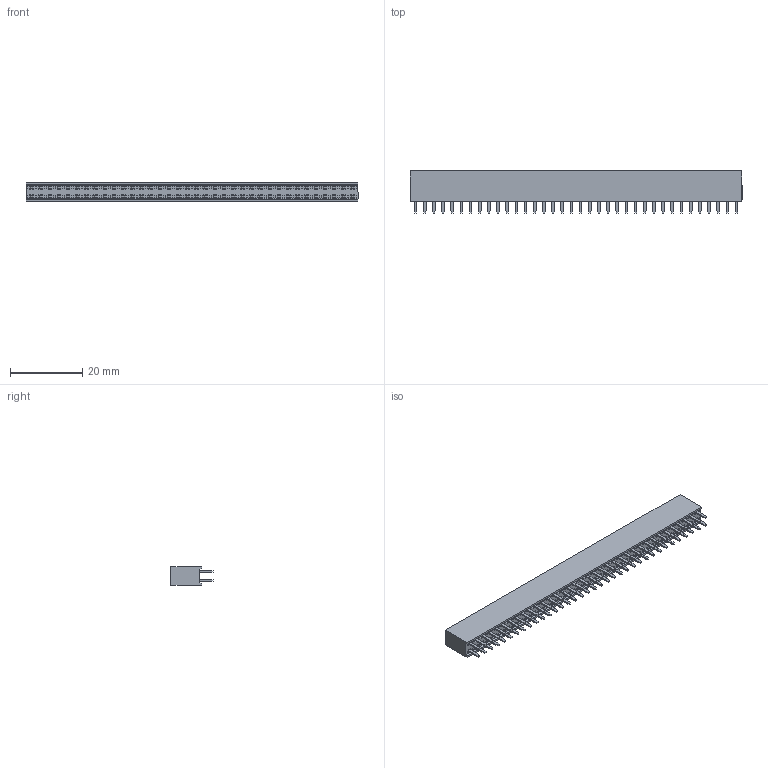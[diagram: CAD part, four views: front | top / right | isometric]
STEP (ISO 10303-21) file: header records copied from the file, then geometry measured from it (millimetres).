
FILE_DESCRIPTION (( 'STEP AP203' ), '1' );
FILE_NAME ('_ _ _C362LFBN-RC.STEP', '2016-08-19T07:34:22', ( 'LUANN HERRING' ), ( 'SULLINS' ), 'SwSTEP 2.0', 'SolidWorks 2015', '' );
FILE_SCHEMA (( 'CONFIG_CONTROL_DESIGN' ));
Length unit declared in the file: inch
Products named in the file (2): _ _ _C362LFBN-RC
Bounding box: 91.94 x 11.7 x 5.08 mm (x, y, z)
Volume: 3234.7 mm3; surface area: 8594.8 mm2
Topology: 73 solids, 73 shells, 3610 faces, 10176 edges, 6784 vertices
Faces by surface type: plane 2746, cylinder 864
Entity records: 116149 total; most frequent: CARTESIAN_POINT 20572, ORIENTED_EDGE 20352, DIRECTION 19128, EDGE_CURVE 10176, LINE 8448, VECTOR 8448, VERTEX_POINT 6784, AXIS2_PLACEMENT_3D 5340
